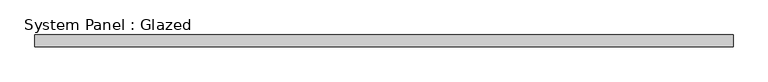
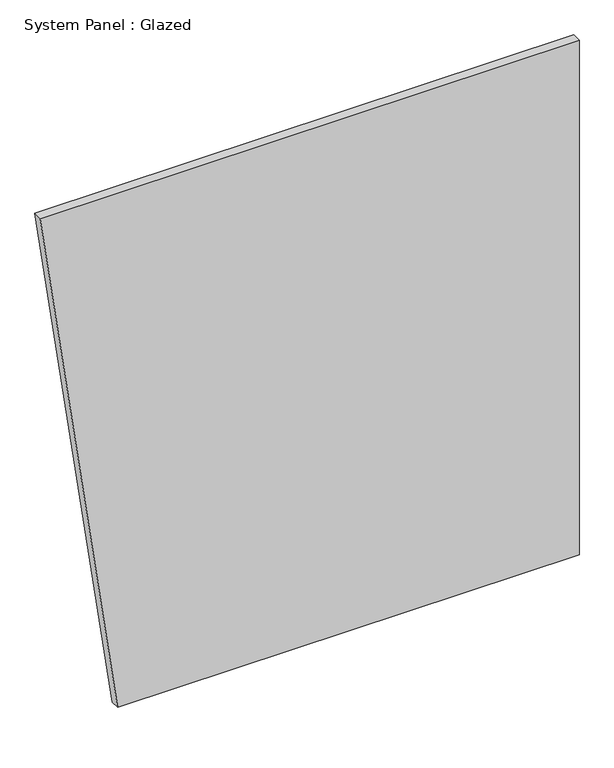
"""IFC4 building model written with IfcOpenShell, lengths in millimetres: plate geometry, System Panel : Glazed."""

from ifc_helpers import new_model, si_unit, frame, origin, place, context, project, spatial, polyline, outline, extrude, source, transform, mapped, element, save


def system_panel_glazed_c6831191(model_context):
    return source(origin(), model_context, "Body", "SweptSolid", [
        extrude(outline(polyline([(0.0, -537.9308736), (0.0, 754.9762287), (1524.0, 754.9762287), (1524.0, -754.9762287), (0.0, -537.9308736)])), frame((0.0, 19.05, 0.0), z_axis=(0.0, 1.0, 0.0), x_axis=(0.0, 0.0, 1.0)), (0.0, 0.0, 1.0), 25.4),
    ])


if __name__ == "__main__":
    model = new_model("IFC4")
    model_context = context("Model", 3, world=origin())
    ifc_project = project(units=[si_unit("LENGTHUNIT", "METRE", prefix="MILLI")], contexts=[model_context])
    site = spatial("IfcSite", under=ifc_project)
    building = spatial("IfcBuilding", under=site)
    placement = place(None, origin())
    system_panel_glazed_shape = system_panel_glazed_c6831191(model_context)
    element("IfcPlate", 1, ObjectType="System Panel : Glazed", at=placement, inside=building, context=model_context, shape_type="MappedRepresentation", body=[
        mapped(system_panel_glazed_shape, transform((0.0, 0.0, 0.0), x_axis=(1.0, 0.0, 0.0), y_axis=(0.0, 1.0, 0.0), z_axis=(0.0, 0.0, 1.0))),
    ])
    save(model, "model.ifc")
